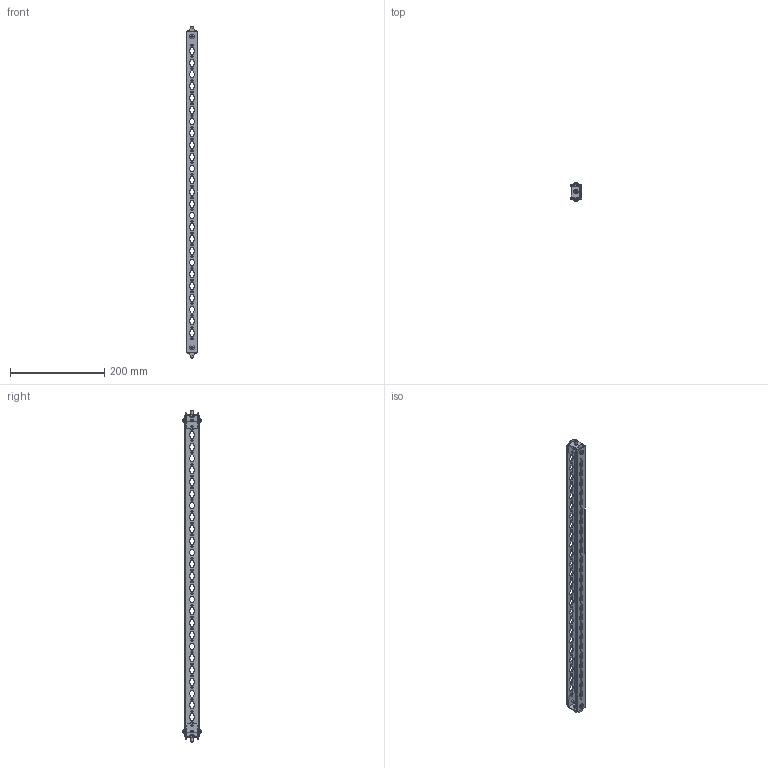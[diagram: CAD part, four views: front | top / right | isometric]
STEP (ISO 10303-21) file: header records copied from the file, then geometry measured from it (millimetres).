
FILE_DESCRIPTION(('Open CASCADE Model'),'2;1');
FILE_NAME('Open CASCADE Shape Model','2025-02-21T09:28:32',('Author'),( 'Open CASCADE'),'Open CASCADE STEP processor 7.8','Open CASCADE 7.8' ,'Unknown');
FILE_SCHEMA(('AUTOMOTIVE_DESIGN { 1 0 10303 214 1 1 1 1 }'));
Length unit declared in the file: millimetre
Products named in the file (4): Compound1; Solid1; Solid2; Solid3
Assembly tree (9 placements, depth 2):
  Compound1
    Solid1
    Solid2  x2
    Solid3  x6
Bounding box: 25 x 38.62 x 706 mm (x, y, z)
Volume: 98501.8 mm3; surface area: 111659.8 mm2
Topology: 9 solids, 9 shells, 1512 faces, 4469 edges, 2981 vertices
Faces by surface type: cylinder 860, plane 616, torus 12, cone 12, sphere 6, bspline 6
Full cylindrical faces by diameter (mm): 4.4 x78, 4.5 x12, 5 x6, 5.5 x2, 6 x6, 9.5 x6
Entity records: 48482 total; most frequent: CARTESIAN_POINT 8795, DIRECTION 8576, ORIENTED_EDGE 8314, EDGE_CURVE 4157, AXIS2_PLACEMENT_3D 3139, VERTEX_POINT 2788, LINE 2298, VECTOR 2298
